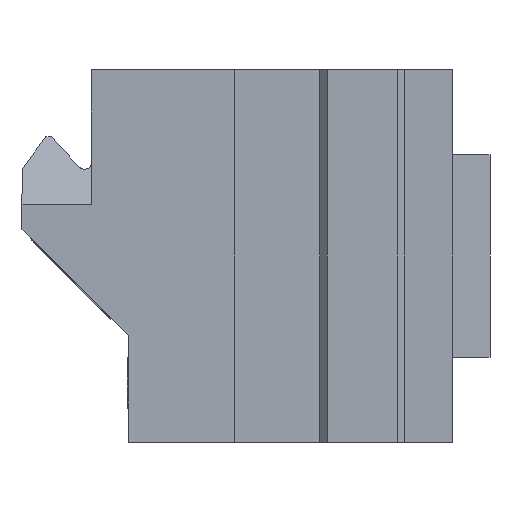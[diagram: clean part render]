
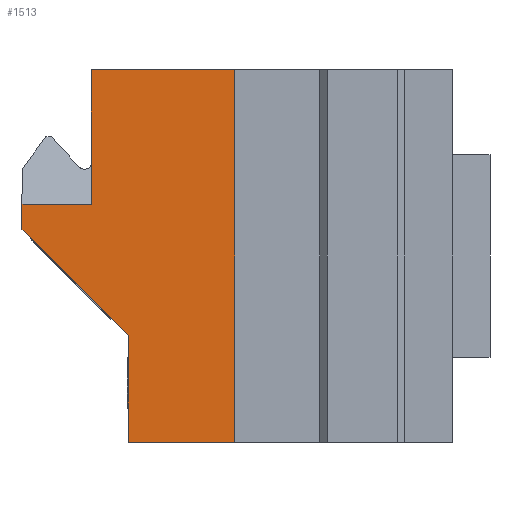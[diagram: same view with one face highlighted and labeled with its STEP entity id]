
A CAD part, left-side view. The second image highlights one B-rep face of the part: STEP entity #1513.
In plain terms, the highlighted planar face has unit normal (-1, 0, 0).
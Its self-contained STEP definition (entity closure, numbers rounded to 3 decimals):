
#168 = VERTEX_POINT ( 'NONE', #10100 ) ;
#170 = VERTEX_POINT ( 'NONE', #9207 ) ;
#175 = ORIENTED_EDGE ( 'NONE', *, *, #5442, .T. ) ;
#383 = VERTEX_POINT ( 'NONE', #4908 ) ;
#450 = EDGE_CURVE ( 'NONE', #383, #10740, #9171, .T. ) ;
#592 = CARTESIAN_POINT ( 'NONE',  ( -26., 37.5, 4.86 ) ) ;
#659 = EDGE_CURVE ( 'NONE', #170, #11204, #7009, .T. ) ;
#661 = LINE ( 'NONE', #13171, #10886 ) ;
#859 = EDGE_CURVE ( 'NONE', #11481, #383, #6853, .T. ) ;
#875 = ORIENTED_EDGE ( 'NONE', *, *, #859, .F. ) ;
#1513 = ADVANCED_FACE ( 'NONE', ( #5762 ), #12635, .T. ) ;
#2360 = ORIENTED_EDGE ( 'NONE', *, *, #11922, .T. ) ;
#2424 = DIRECTION ( 'NONE',  ( 0., 0., 1. ) ) ;
#2446 = VECTOR ( 'NONE', #11114, 1000. ) ;
#2558 = CARTESIAN_POINT ( 'NONE',  ( -26., 24., -17.5 ) ) ;
#2714 = VECTOR ( 'NONE', #5308, 1000. ) ;
#3452 = DIRECTION ( 'NONE',  ( 0., -0.707, -0.707 ) ) ;
#3741 = LINE ( 'NONE', #7832, #9823 ) ;
#4907 = CARTESIAN_POINT ( 'NONE',  ( -26., 24., -17.5 ) ) ;
#4908 = CARTESIAN_POINT ( 'NONE',  ( -26., 37.5, 17.5 ) ) ;
#5045 = EDGE_CURVE ( 'NONE', #11481, #168, #661, .T. ) ;
#5055 = VECTOR ( 'NONE', #6102, 1000. ) ;
#5308 = DIRECTION ( 'NONE',  ( 0., -1., 0. ) ) ;
#5442 = EDGE_CURVE ( 'NONE', #11204, #8654, #3741, .T. ) ;
#5762 = FACE_OUTER_BOUND ( 'NONE', #6141, .T. ) ;
#6102 = DIRECTION ( 'NONE',  ( 0., 0., 1. ) ) ;
#6141 = EDGE_LOOP ( 'NONE', ( #7463, #7536, #2360, #12902, #175, #6589, #8798, #875 ) ) ;
#6550 = LINE ( 'NONE', #10646, #11225 ) ;
#6589 = ORIENTED_EDGE ( 'NONE', *, *, #6800, .T. ) ;
#6800 = EDGE_CURVE ( 'NONE', #8654, #10740, #12972, .T. ) ;
#6853 = LINE ( 'NONE', #592, #10094 ) ;
#7009 = LINE ( 'NONE', #10240, #7520 ) ;
#7299 = CARTESIAN_POINT ( 'NONE',  ( -26., 37.5, 4.86 ) ) ;
#7463 = ORIENTED_EDGE ( 'NONE', *, *, #5045, .T. ) ;
#7520 = VECTOR ( 'NONE', #12042, 1000. ) ;
#7536 = ORIENTED_EDGE ( 'NONE', *, *, #7737, .F. ) ;
#7737 = EDGE_CURVE ( 'NONE', #10569, #168, #11703, .T. ) ;
#7832 = CARTESIAN_POINT ( 'NONE',  ( -26., 24., -17.5 ) ) ;
#8149 = DIRECTION ( 'NONE',  ( 0., -1., 0. ) ) ;
#8173 = CARTESIAN_POINT ( 'NONE',  ( -26., 24., 17.5 ) ) ;
#8654 = VERTEX_POINT ( 'NONE', #4907 ) ;
#8798 = ORIENTED_EDGE ( 'NONE', *, *, #450, .F. ) ;
#8954 = CARTESIAN_POINT ( 'NONE',  ( -26., 24., 17.5 ) ) ;
#9171 = LINE ( 'NONE', #8173, #2714 ) ;
#9207 = CARTESIAN_POINT ( 'NONE',  ( -26., 34., -7.5 ) ) ;
#9823 = VECTOR ( 'NONE', #8149, 1000. ) ;
#9889 = DIRECTION ( 'NONE',  ( 0., 0., 1. ) ) ;
#10094 = VECTOR ( 'NONE', #9889, 1000. ) ;
#10100 = CARTESIAN_POINT ( 'NONE',  ( -26., 44., 4.86 ) ) ;
#10185 = AXIS2_PLACEMENT_3D ( 'NONE', #2558, #12894, #2424 ) ;
#10240 = CARTESIAN_POINT ( 'NONE',  ( -26., 34., -7.5 ) ) ;
#10569 = VERTEX_POINT ( 'NONE', #12347 ) ;
#10646 = CARTESIAN_POINT ( 'NONE',  ( -26., 44., 2.5 ) ) ;
#10697 = CARTESIAN_POINT ( 'NONE',  ( -26., 44., -17.5 ) ) ;
#10740 = VERTEX_POINT ( 'NONE', #8954 ) ;
#10886 = VECTOR ( 'NONE', #12871, 1000. ) ;
#11114 = DIRECTION ( 'NONE',  ( 0., 0., 1. ) ) ;
#11188 = CARTESIAN_POINT ( 'NONE',  ( -26., 34., -17.5 ) ) ;
#11204 = VERTEX_POINT ( 'NONE', #11188 ) ;
#11225 = VECTOR ( 'NONE', #3452, 1000. ) ;
#11481 = VERTEX_POINT ( 'NONE', #7299 ) ;
#11703 = LINE ( 'NONE', #10697, #5055 ) ;
#11922 = EDGE_CURVE ( 'NONE', #10569, #170, #6550, .T. ) ;
#12042 = DIRECTION ( 'NONE',  ( 0., 0., -1. ) ) ;
#12066 = CARTESIAN_POINT ( 'NONE',  ( -26., 24., -17.5 ) ) ;
#12347 = CARTESIAN_POINT ( 'NONE',  ( -26., 44., 2.5 ) ) ;
#12635 = PLANE ( 'NONE',  #10185 ) ;
#12871 = DIRECTION ( 'NONE',  ( 0., 1., 0. ) ) ;
#12894 = DIRECTION ( 'NONE',  ( -1., 0., 0. ) ) ;
#12902 = ORIENTED_EDGE ( 'NONE', *, *, #659, .T. ) ;
#12972 = LINE ( 'NONE', #12066, #2446 ) ;
#13171 = CARTESIAN_POINT ( 'NONE',  ( -26., 37.5, 4.86 ) ) ;
